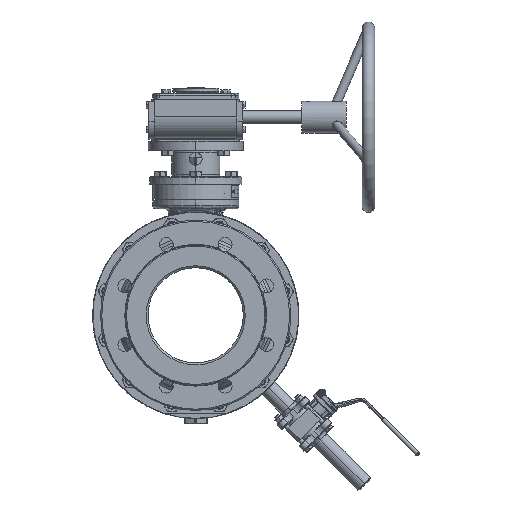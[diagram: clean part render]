
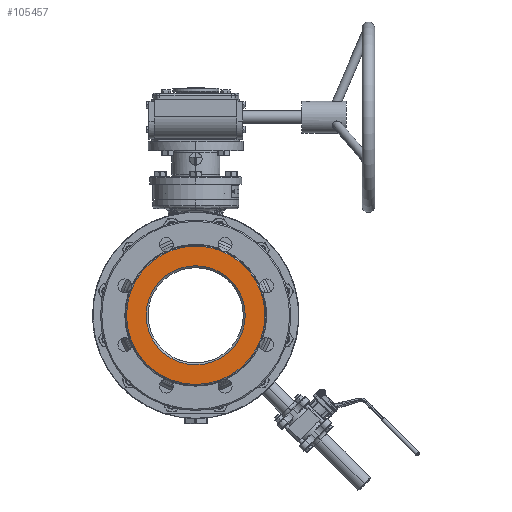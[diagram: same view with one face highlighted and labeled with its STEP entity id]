
A CAD part, left-side view. The second image highlights one B-rep face of the part: STEP entity #105457.
In plain terms, the highlighted planar face has unit normal (-1, 0, 0).
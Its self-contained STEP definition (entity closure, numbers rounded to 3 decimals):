
#21193=CARTESIAN_POINT('',(-197.,0.,0.));
#21194=DIRECTION('',(1.,0.,0.));
#21195=DIRECTION('',(0.,0.,1.));
#21196=AXIS2_PLACEMENT_3D('',#21193,#21194,#21195);
#21202=CARTESIAN_POINT('',(-197.,0.,0.));
#21203=DIRECTION('',(-1.,0.,0.));
#21204=DIRECTION('',(0.,0.,1.));
#21205=AXIS2_PLACEMENT_3D('',#21202,#21203,#21204);
#21207=CARTESIAN_POINT('',(-197.,0.,0.));
#21208=DIRECTION('',(-1.,0.,0.));
#21209=DIRECTION('',(0.,0.,1.));
#21210=AXIS2_PLACEMENT_3D('',#21207,#21208,#21209);
#21212=CARTESIAN_POINT('',(-197.,0.,0.));
#21213=DIRECTION('',(1.,0.,0.));
#21214=DIRECTION('',(0.,0.,1.));
#21215=AXIS2_PLACEMENT_3D('',#21212,#21213,#21214);
#61010=CARTESIAN_POINT('',(-197.,0.,78.));
#61011=VERTEX_POINT('',#61010);
#61016=CARTESIAN_POINT('',(-197.,0.,-78.));
#61017=VERTEX_POINT('',#61016);
#61028=CARTESIAN_POINT('',(-197.,0.,109.));
#61029=CARTESIAN_POINT('',(-197.,0.,-109.));
#61030=VERTEX_POINT('',#61028);
#61031=VERTEX_POINT('',#61029);
#105442=CARTESIAN_POINT('',(-197.,0.,0.));
#105443=DIRECTION('',(-1.,0.,0.));
#105444=DIRECTION('',(0.,0.,-1.));
#105445=AXIS2_PLACEMENT_3D('',#105442,#105443,#105444);
#105446=PLANE('',#105445);
#105448=ORIENTED_EDGE('',*,*,#105447,.F.);
#105450=ORIENTED_EDGE('',*,*,#105449,.T.);
#105451=EDGE_LOOP('',(#105448,#105450));
#105452=FACE_OUTER_BOUND('',#105451,.F.);
#105453=ORIENTED_EDGE('',*,*,#105421,.F.);
#105454=ORIENTED_EDGE('',*,*,#105437,.T.);
#105455=EDGE_LOOP('',(#105453,#105454));
#105456=FACE_BOUND('',#105455,.F.);
#21197=CIRCLE('',#21196,78.);
#21206=CIRCLE('',#21205,78.);
#21211=CIRCLE('',#21210,109.);
#21216=CIRCLE('',#21215,109.);
#105421=EDGE_CURVE('',#61011,#61017,#21197,.T.);
#105437=EDGE_CURVE('',#61011,#61017,#21206,.T.);
#105447=EDGE_CURVE('',#61030,#61031,#21211,.T.);
#105449=EDGE_CURVE('',#61030,#61031,#21216,.T.);
#105457=ADVANCED_FACE('',(#105452,#105456),#105446,.T.);
